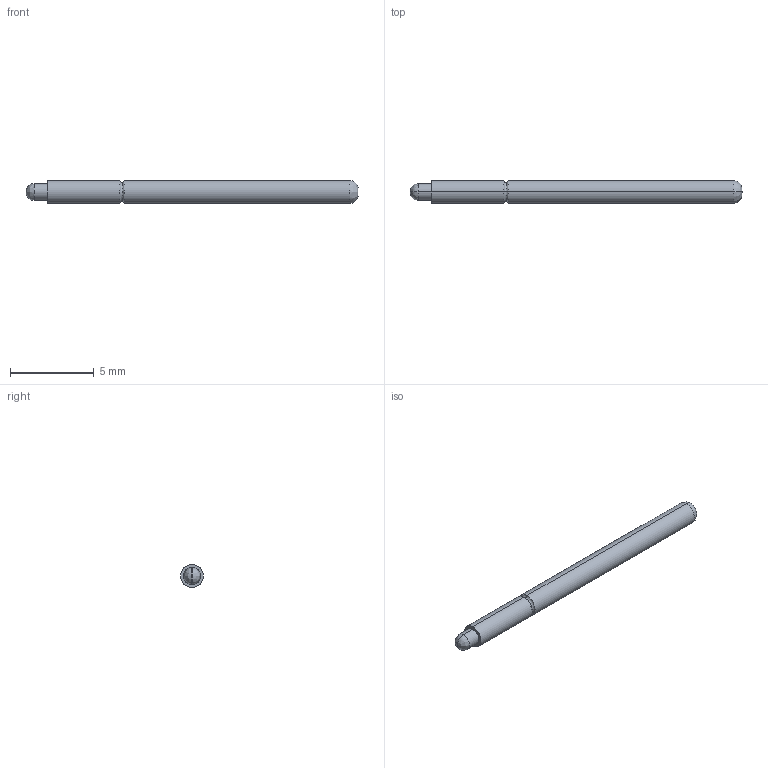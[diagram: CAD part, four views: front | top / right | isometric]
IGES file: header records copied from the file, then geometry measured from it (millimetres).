
Start section: SolidWorks IGES file using analytic representation for surfaces
Global section: file name: O:\PYLON\IGES FILES\P2664\P2664G-1R1S FULL.IGS; native system: SolidWorks 2015; preprocessor: SolidWorks 2015; author: kgolden; date: 171019.131449; units: inch
Bounding box: 19.83 x 1.37 x 1.37 mm (x, y, z)
Surface area: 89.4 mm2 (no closed solid volume)
Topology: 0 solids, 0 shells, 19 faces, 120 edges, 120 vertices
Faces by surface type: bspline 11, revolution 8
